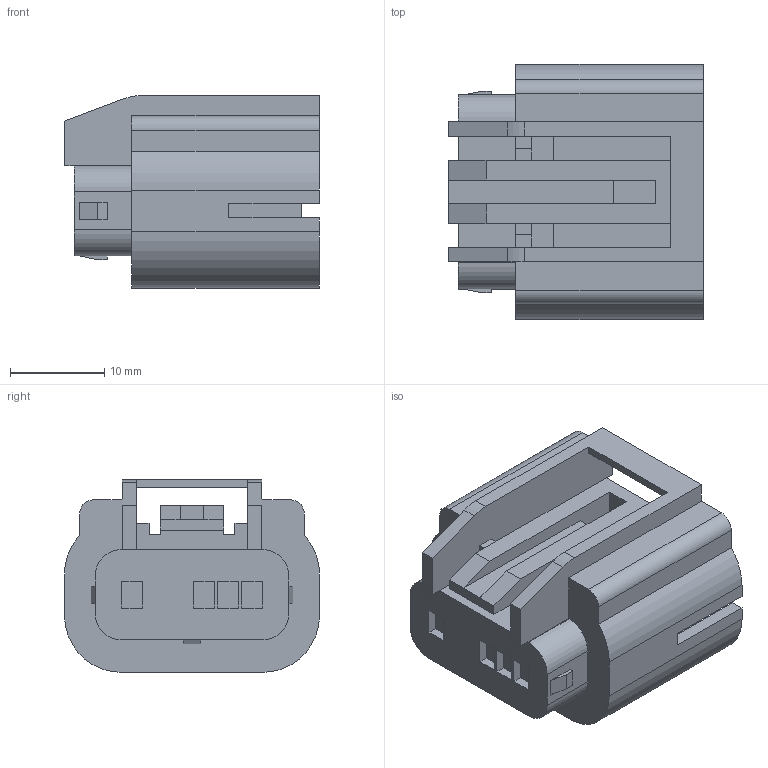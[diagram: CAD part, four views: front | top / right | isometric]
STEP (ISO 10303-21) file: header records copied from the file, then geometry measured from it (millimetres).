
FILE_DESCRIPTION(('CATIA V5 STEP Exchange'),'2;1');
FILE_NAME('N:\C-DAM_MyDesk\ENV\900093\6189-7011.stp','2013-06-13T07:14:00+00:00',('none'),('none'),'CATIA Version 5 Release 20 SP 4 (IN-10)','CATIA V5 STEP AP203','none');
FILE_SCHEMA(('CONFIG_CONTROL_DESIGN'));
Length unit declared in the file: millimetre
Products named in the file (1): 6189-7011
Bounding box: 27 x 27 x 20.4 mm (x, y, z)
Volume: 6632.2 mm3; surface area: 5729.2 mm2
Topology: 1 solids, 1 shells, 168 faces, 456 edges, 302 vertices
Faces by surface type: plane 144, cylinder 24
Entity records: 4982 total; most frequent: ORIENTED_EDGE 912, CARTESIAN_POINT 879, DIRECTION 696, EDGE_CURVE 456, VECTOR 408, LINE 408, VERTEX_POINT 302, EDGE_LOOP 184
